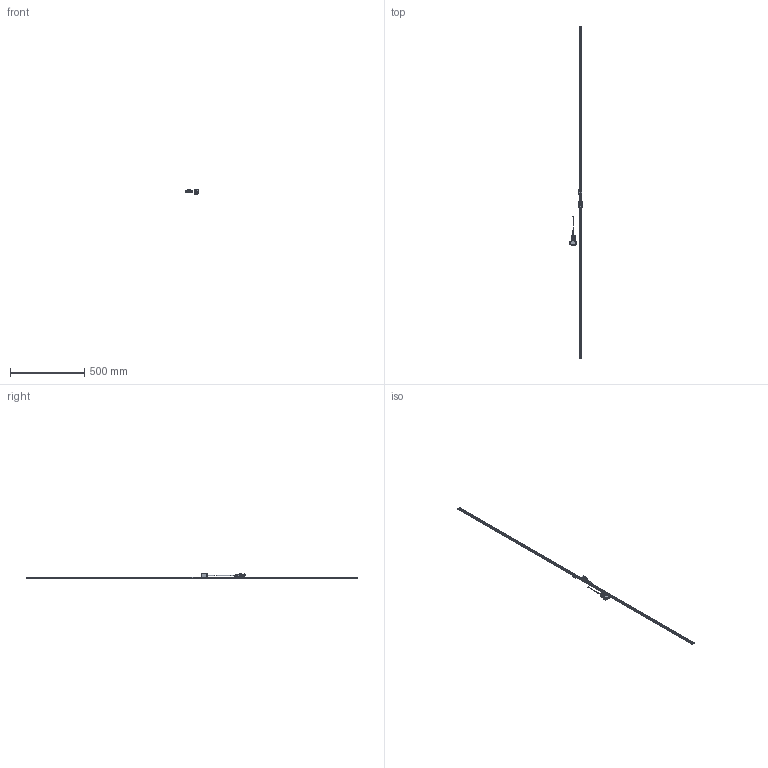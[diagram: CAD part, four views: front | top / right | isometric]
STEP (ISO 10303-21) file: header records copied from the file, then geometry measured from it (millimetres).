
FILE_DESCRIPTION(('Creo Elements/Direct Modeling STEP Export'),'2;1');
FILE_NAME('ST1300-2200F_G.stp','2022-08-16T11:16:55',(''),(''),'Creo Elements/Direct Modeling STEP processor for AP214 (Solid Model)','Creo Elements/Direct Modeling 18.1I 13-Aug-2016 (C) Parametric Technology GmbH','');
FILE_SCHEMA(('AUTOMOTIVE_DESIGN { 1 0 10303 214 1 1 1 1 }'));
Length unit declared in the file: millimetre
Products named in the file (4): Scale_2200; Connector; Detector_Head; ST1300-2200F_G
Assembly tree (3 placements, depth 2):
  ST1300-2200F_G
    Detector_Head
    Connector
    Scale_2200
Bounding box: 83 x 2240 x 30.1 mm (x, y, z)
Volume: 204905.4 mm3; surface area: 120557.3 mm2
Topology: 2 solids, 6 shells, 3745 faces, 10240 edges, 6657 vertices
Faces by surface type: plane 1724, cylinder 1587, extrusion 294, cone 87, torus 26, bspline 23, revolution 4
Entity records: 124405 total; most frequent: CARTESIAN_POINT 29316, ORIENTED_EDGE 20464, DIRECTION 18826, EDGE_CURVE 10228, VERTEX_POINT 6657, VECTOR 6290, AXIS2_PLACEMENT_3D 6265, LINE 6040
